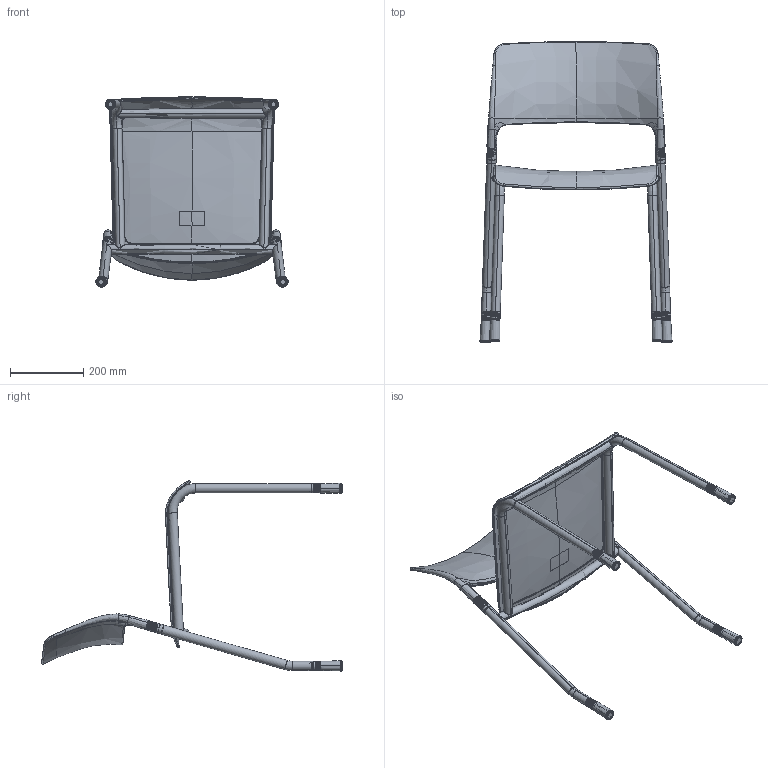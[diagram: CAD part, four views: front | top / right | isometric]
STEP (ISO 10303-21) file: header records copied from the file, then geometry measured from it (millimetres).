
FILE_DESCRIPTION((''),'2;1');
FILE_NAME('C5633_ASSEMBLY_ASM','2014-08-06T',('JUNG JAE GYU'),(''),'PRO/ENGINEER BY PARAMETRIC TECHNOLOGY CORPORATION, 2005290','PRO/ENGINEER BY PARAMETRIC TECHNOLOGY CORPORATION, 2005290','');
FILE_SCHEMA(('CONFIG_CONTROL_DESIGN'));
Length unit declared in the file: millimetre
Products named in the file (19): C56XX_SKEL; C56XX_FRAME_REAR_REINFORCE; C56XX_FRAME_FRONT_L; C56XX_FRAME_FRONT_R; C56XX_FRAME_FRONT_REINFORCE; C56XX_FRAME_REAR; C56XX_FRAME_ASSEMBLY_ASM; C56XX_BACK_SHELL; C56XX_BACK_INSERT_ROD; C56XX_BACK_SHELL_ASSEMBLY_ASM; PUSH_NUT_DOUBLE_HOLE_24X8; C56XX_BACK_ASSEMBLY_ASM; C56XX_SEAT_SHELL; C49XX_TREE_SNAP; FLAT_4X10_E; C56XX_SEAT_ASSEMBLY_ASM; C56XX_GLIDE; T2XXX_GLIDE_PAD; C5633_ASSEMBLY_ASM
Assembly tree (35 placements, depth 4):
  C5633_ASSEMBLY_ASM
    C56XX_SKEL
    C56XX_FRAME_ASSEMBLY_ASM
      C56XX_FRAME_REAR_REINFORCE
      C56XX_FRAME_FRONT_L
      C56XX_FRAME_FRONT_R
      C56XX_FRAME_FRONT_REINFORCE
      C56XX_FRAME_REAR  x2
    C56XX_BACK_ASSEMBLY_ASM
      C56XX_BACK_SHELL_ASSEMBLY_ASM
        C56XX_BACK_SHELL
        C56XX_BACK_INSERT_ROD  x2
      PUSH_NUT_DOUBLE_HOLE_24X8  x2
    C56XX_SEAT_ASSEMBLY_ASM
      C56XX_SEAT_SHELL
      C49XX_TREE_SNAP  x5
      FLAT_4X10_E  x5
    C56XX_GLIDE  x4
    T2XXX_GLIDE_PAD  x4
Bounding box: 523.33 x 819.17 x 517.96 mm (x, y, z)
Volume: 2219618.4 mm3; surface area: 1282475.9 mm2
Topology: 34 solids, 34 shells, 3684 faces, 9505 edges, 5966 vertices
Faces by surface type: plane 1331, cylinder 920, bspline 638, cone 384, torus 346, sphere 48, extrusion 17
Entity records: 81045 total; most frequent: CARTESIAN_POINT 44585, ORIENTED_EDGE 8264, DIRECTION 6606, EDGE_CURVE 4132, AXIS2_PLACEMENT_3D 2609, VERTEX_POINT 2589, EDGE_LOOP 1665, FACE_OUTER_BOUND 1600
